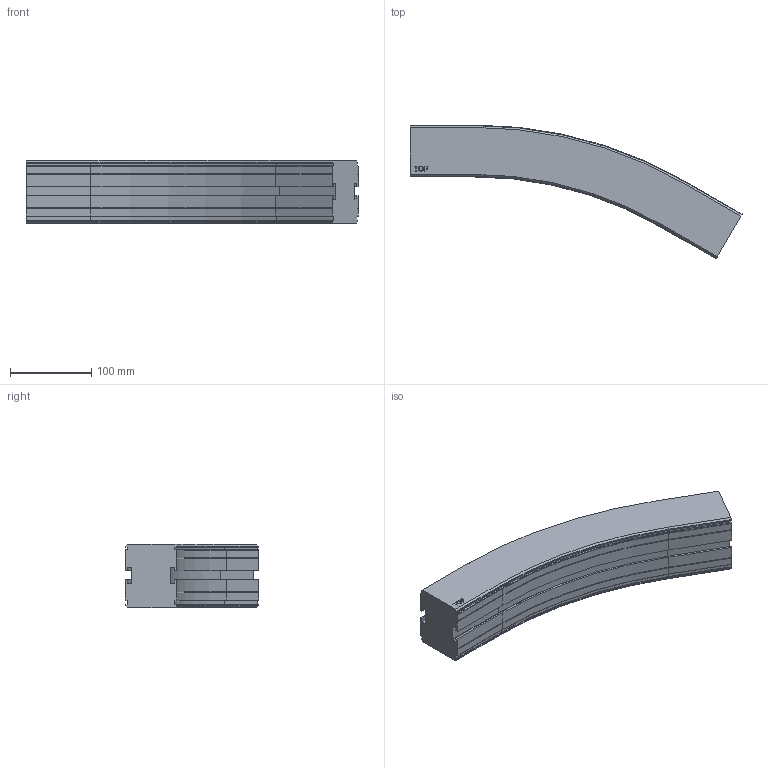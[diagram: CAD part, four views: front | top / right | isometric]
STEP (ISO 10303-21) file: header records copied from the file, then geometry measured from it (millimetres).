
FILE_DESCRIPTION((''),'2;1');
FILE_NAME('C:\Vault Klient\Projekt\Koncept konstruktion\Serie 620 Balk\620-5290.stp','2009-11-26T15:09:09',('Mathias'),(''),'Autodesk Inventor 2010','Autodesk Inventor 2010','');
FILE_SCHEMA(('AUTOMOTIVE_DESIGN { 1 0 10303 214 1 1 1 1 }'));
Length unit declared in the file: millimetre
Products named in the file (1): 620-5290
Bounding box: 409.78 x 165.23 x 78 mm (x, y, z)
Volume: 1934763.3 mm3; surface area: 159296.8 mm2
Topology: 1 solids, 1 shells, 169 faces, 446 edges, 284 vertices
Faces by surface type: plane 109, cylinder 30, bspline 14, cone 12, torus 4
Entity records: 5295 total; most frequent: CARTESIAN_POINT 1094, ORIENTED_EDGE 892, DIRECTION 802, EDGE_CURVE 446, VECTOR 346, LINE 346, VERTEX_POINT 284, AXIS2_PLACEMENT_3D 228
